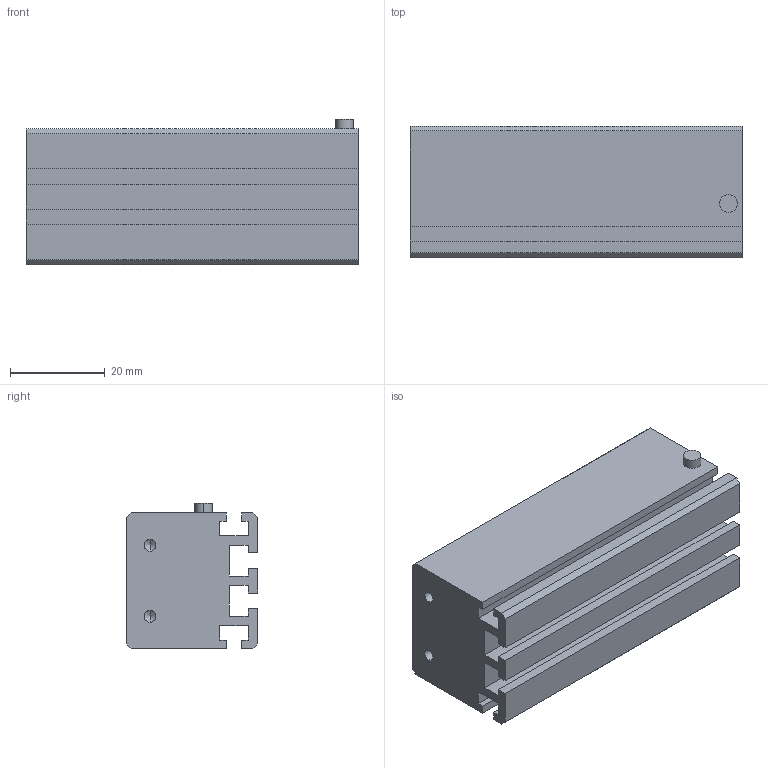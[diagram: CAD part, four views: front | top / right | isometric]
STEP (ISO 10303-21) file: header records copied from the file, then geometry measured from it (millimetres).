
FILE_DESCRIPTION (( 'STEP AP203' ), '1' );
FILE_NAME ('LRD-B4-70.STEP', '2023-11-20T07:39:39', ( '' ), ( '' ), 'SwSTEP 2.0', 'SolidWorks 2018', '' );
FILE_SCHEMA (( 'CONFIG_CONTROL_DESIGN' ));
Length unit declared in the file: millimetre
Products named in the file (1): LRD-B4-70
Bounding box: 70 x 27.7 x 30.6 mm (x, y, z)
Volume: 46007 mm3; surface area: 14094.4 mm2
Topology: 1 solids, 1 shells, 66 faces, 178 edges, 112 vertices
Faces by surface type: plane 48, cylinder 10, cone 8
Entity records: 2059 total; most frequent: CARTESIAN_POINT 349, ORIENTED_EDGE 340, DIRECTION 324, EDGE_CURVE 170, LINE 150, VECTOR 150, VERTEX_POINT 112, AXIS2_PLACEMENT_3D 87
